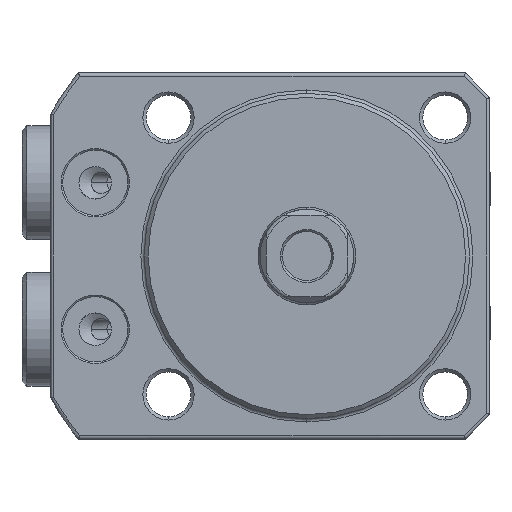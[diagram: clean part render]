
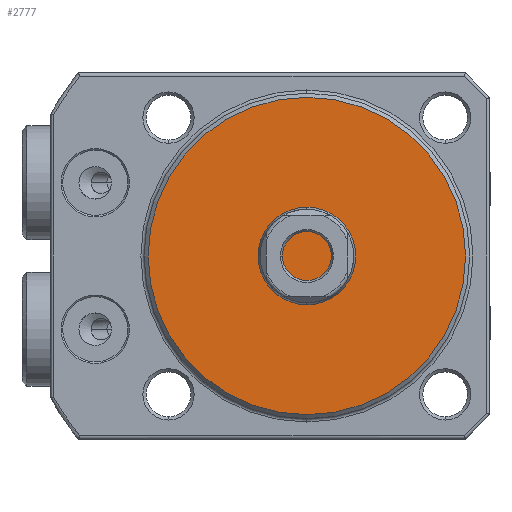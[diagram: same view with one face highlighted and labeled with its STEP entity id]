
A CAD part, front view. The second image highlights one B-rep face of the part: STEP entity #2777.
In plain terms, the highlighted planar face has unit normal (0, -1, 0) as drawn and (-1, 0, 0) by its records, which use the part's own axes.
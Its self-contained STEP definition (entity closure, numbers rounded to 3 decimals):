
#1602=PLANE('',#7531);
#2777=ADVANCED_FACE('',(#3145),#1602,.F.);
#3145=FACE_OUTER_BOUND('',#3536,.T.);
#3536=EDGE_LOOP('',(#5160));
#5160=ORIENTED_EDGE('',*,*,#6473,.T.);
#5661=VERTEX_POINT('',#12394);
#6473=EDGE_CURVE('',#5661,#5661,#6835,.T.);
#6835=CIRCLE('',#7530,19.5);
#7530=AXIS2_PLACEMENT_3D('',#12393,#9261,#9262);
#7531=AXIS2_PLACEMENT_3D('',#12395,#9263,#9264);
#9261=DIRECTION('',(-1.,0.,0.));
#9262=DIRECTION('',(0.,0.,-1.));
#9263=DIRECTION('',(1.,0.,0.));
#9264=DIRECTION('',(0.,0.,1.));
#12393=CARTESIAN_POINT('',(0.,0.,0.));
#12394=CARTESIAN_POINT('',(0.,0.,-19.5));
#12395=CARTESIAN_POINT('',(0.,0.,0.));
